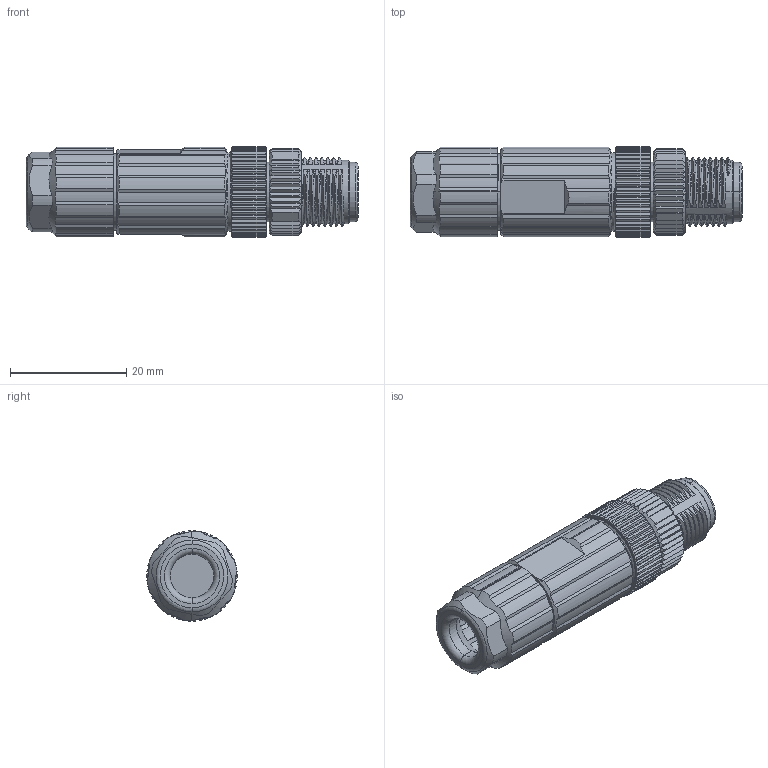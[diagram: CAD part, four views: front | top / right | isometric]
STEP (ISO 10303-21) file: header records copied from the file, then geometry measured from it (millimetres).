
FILE_DESCRIPTION (( 'STEP AP203' ), '1' );
FILE_NAME ('64F861 220825.STEP', '2022-08-25T07:25:11', ( '' ), ( '' ), 'SwSTEP 2.0', 'SolidWorks 2016', '' );
FILE_SCHEMA (( 'CONFIG_CONTROL_DESIGN' ));
Products named in the file (1): 64F861 220825
Bounding box: 57.2 x 15.6 x 15.59 mm (x, y, z)
Volume: 7684.9 mm3; surface area: 6659.9 mm2
Topology: 1 solids, 1 shells, 872 faces, 2605 edges, 1743 vertices
Faces by surface type: plane 384, cylinder 218, cone 169, bspline 89, torus 12
Entity records: 57775 total; most frequent: CARTESIAN_POINT 35927, ORIENTED_EDGE 5194, DIRECTION 3710, EDGE_CURVE 2597, VERTEX_POINT 1743, AXIS2_PLACEMENT_3D 1350, B_SPLINE_CURVE_WITH_KNOTS 1019, LINE 1010
